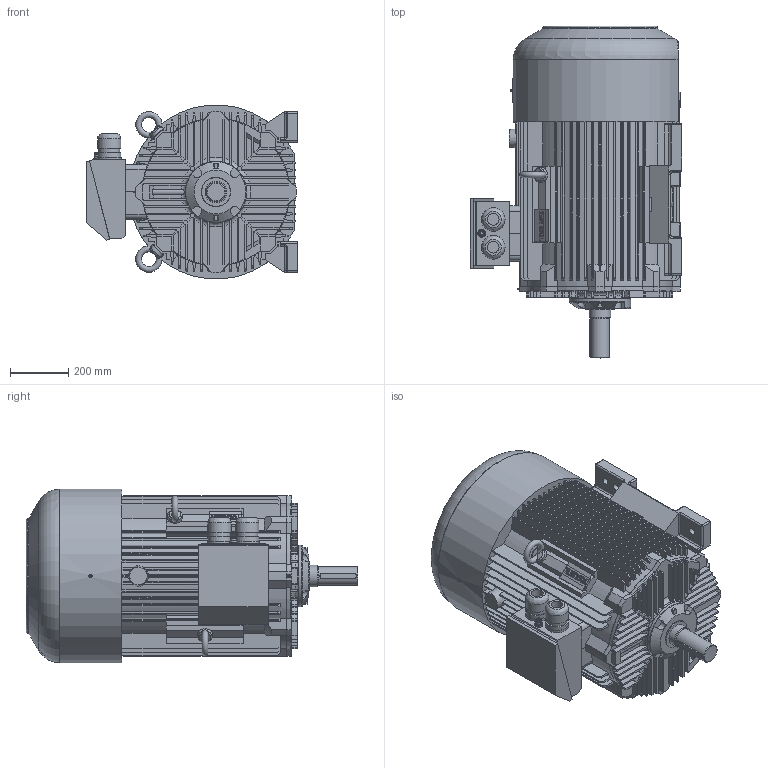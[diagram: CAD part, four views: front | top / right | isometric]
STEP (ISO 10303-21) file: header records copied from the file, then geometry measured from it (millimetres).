
FILE_DESCRIPTION( ( 'Unknown' ), '1' );
FILE_NAME( 'O:/Adam_O/_materialy dla Adama/2SIE_3D_TOOLMEX/2SIE280/2SIE280 M_S2.stp', 'Unknown', ( 'Unknown' ), ( 'Unknown' ), 'XStep 1.0', 'Unknown', ' ' );
FILE_SCHEMA( ( 'CONFIG_CONTROL_DESIGN' ) );
Length unit declared in the file: millimetre
Products named in the file (3): 1; 2; 3
Bounding box: 724.3 x 1134.98 x 594.39 mm (x, y, z)
Volume: 226475586.5 mm3; surface area: 4849004.9 mm2
Topology: 3 solids, 4 shells, 1486 faces, 4016 edges, 2542 vertices
Faces by surface type: plane 818, cylinder 390, torus 84, bspline 83, cone 67, sphere 40, extrusion 4
Full cylindrical faces by diameter (mm): 1.6 x2, 5 x5, 11.083 x1, 19 x1, 20.752 x4, 21 x1, 23 x1, 24 x6, 27 x1, 40 x2, 50 x2, 65 x1, 71.32 x2, 74.5 x1, 78.781 x2, 80.024 x2, 81.268 x2, 98.8 x1, 100 x1, 208 x1, 210 x1
Entity records: 65274 total; most frequent: CARTESIAN_POINT 29029, ORIENTED_EDGE 7760, DIRECTION 7220, EDGE_CURVE 3880, VERTEX_POINT 2520, AXIS2_PLACEMENT_3D 2508, VECTOR 2204, LINE 2200
